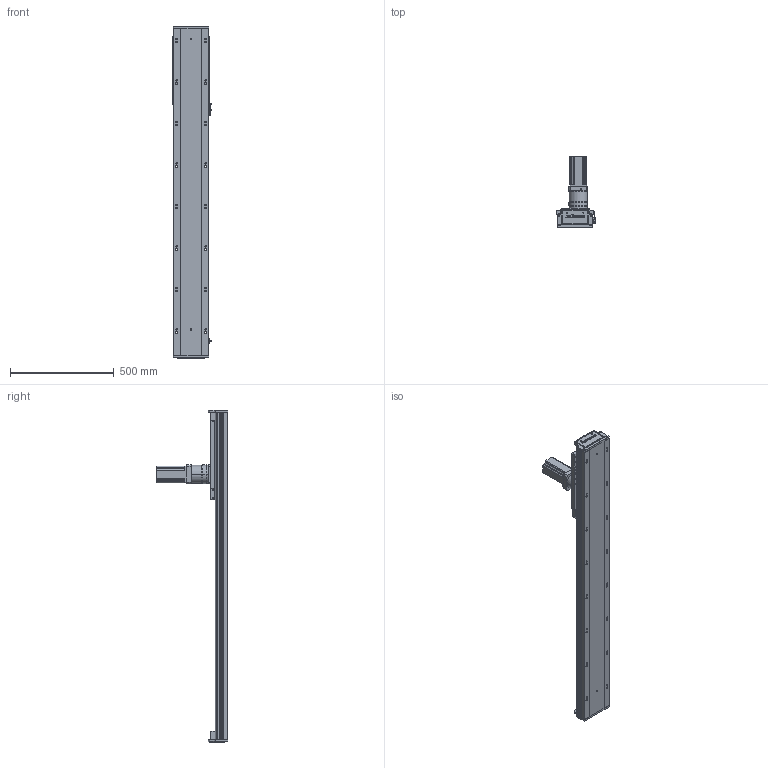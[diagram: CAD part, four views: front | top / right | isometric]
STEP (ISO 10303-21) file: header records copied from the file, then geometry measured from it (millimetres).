
FILE_DESCRIPTION (( 'STEP AP203' ), '1' );
FILE_NAME ('RY170-C-1000-UK.SLDASM_1100.step', '2021-03-03T00:46:22', ( '盈信电脑' ), ( '东莞市道滘镇水果街19号' ), 'SwSTEP 2.0', 'SolidWorks 2012', '' );
FILE_SCHEMA (( 'CONFIG_CONTROL_DESIGN' ));
Length unit declared in the file: millimetre
Products named in the file (13): RY170-1000-喘沭耀郪絳寢EGH20CA_1100; RY170綴裔啣ㄗ蜊秶ㄘ; 覜茼ん672; 絳寢賑輸EGH20CA; RY170-1000齿条模组型材底座_1100; RY170外置感应片(200共用）; RY170-喘沭賑輸; RY170-C-1000-UK.SLDASM_1100; 左旋斜齿齿轮_M2_22齿_内孔20; RY170-喘沭滅袉蝶輸; 怢湛750W萇儂ㄗ80遺ㄘ; TF080等撰; RY170-喘謫萇儂覃誹啣
Assembly tree (22 placements, depth 2):
  RY170-C-1000-UK.SLDASM_1100
    RY170-1000齿条模组型材底座_1100
    絳寢賑輸EGH20CA  x6
    RY170-1000-喘沭耀郪絳寢EGH20CA_1100  x2
    RY170綴裔啣ㄗ蜊秶ㄘ  x2
    覜茼ん672  x3
    RY170外置感应片(200共用）
    RY170-喘謫萇儂覃誹啣
    怢湛750W萇儂ㄗ80遺ㄘ
    RY170-喘沭滅袉蝶輸  x2
    TF080等撰
    左旋斜齿齿轮_M2_22齿_内孔20
    RY170-喘沭賑輸
Bounding box: 188.7 x 343.5 x 1600 mm (x, y, z)
Volume: 9945211.9 mm3; surface area: 2360405.2 mm2
Topology: 24 solids, 24 shells, 3889 faces, 10696 edges, 6895 vertices
Faces by surface type: plane 1967, cylinder 1614, cone 254, bspline 50, torus 4
Entity records: 83382 total; most frequent: CARTESIAN_POINT 18463, ORIENTED_EDGE 13374, DIRECTION 13154, EDGE_CURVE 6687, AXIS2_PLACEMENT_3D 4783, VERTEX_POINT 4355, VECTOR 3588, LINE 3588
